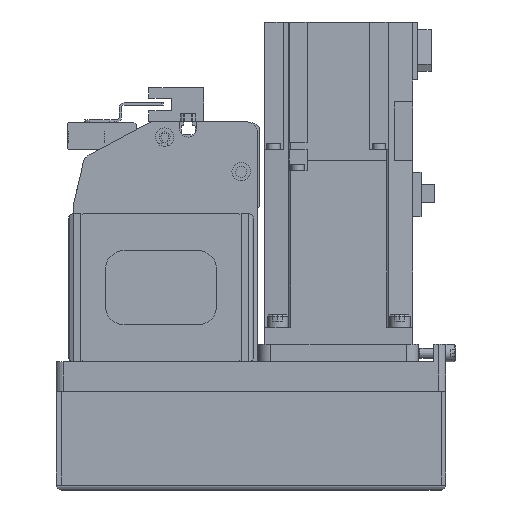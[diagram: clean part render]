
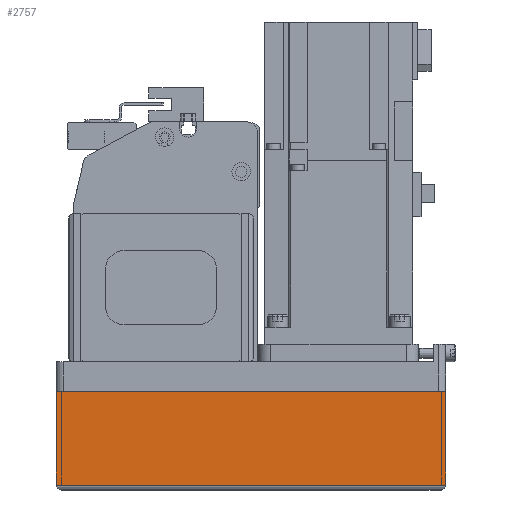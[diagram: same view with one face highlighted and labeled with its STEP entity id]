
A CAD part, left-side view. The second image highlights one B-rep face of the part: STEP entity #2757.
In plain terms, the highlighted planar face has unit normal (-1, 0, 0) as drawn and (0, 1, 0) by its records, which use the part's own axes.
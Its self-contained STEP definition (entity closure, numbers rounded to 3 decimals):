
#2757 = ADVANCED_FACE( '', ( #5980 ), #5981, .T. );
#5980 = FACE_OUTER_BOUND( '', #9535, .T. );
#5981 = PLANE( '', #9536 );
#9535 = EDGE_LOOP( '', ( #17371, #17372, #17373, #17374 ) );
#9536 = AXIS2_PLACEMENT_3D( '', #17375, #17376, #17377 );
#17371 = ORIENTED_EDGE( '', *, *, #20808, .F. );
#17372 = ORIENTED_EDGE( '', *, *, #20596, .F. );
#17373 = ORIENTED_EDGE( '', *, *, #21241, .T. );
#17374 = ORIENTED_EDGE( '', *, *, #22946, .T. );
#17375 = CARTESIAN_POINT( '', ( -158., 39., -50. ) );
#17376 = DIRECTION( '', ( 0., 1., 0. ) );
#17377 = DIRECTION( '', ( 0., 0., 1. ) );
#20596 = EDGE_CURVE( '', #24798, #24801, #24802, .T. );
#20808 = EDGE_CURVE( '', #24801, #25158, #25159, .T. );
#21241 = EDGE_CURVE( '', #24798, #25873, #25876, .T. );
#22946 = EDGE_CURVE( '', #25873, #25158, #28267, .T. );
#24798 = VERTEX_POINT( '', #30735 );
#24801 = VERTEX_POINT( '', #30738 );
#24802 = LINE( '', #30739, #30740 );
#25158 = VERTEX_POINT( '', #31394 );
#25159 = LINE( '', #31395, #31396 );
#25873 = VERTEX_POINT( '', #32687 );
#25876 = LINE( '', #32691, #32692 );
#28267 = LINE( '', #36420, #36421 );
#30735 = CARTESIAN_POINT( '', ( -158., 39., -50. ) );
#30738 = CARTESIAN_POINT( '', ( 0., 39., -50. ) );
#30739 = CARTESIAN_POINT( '', ( -158., 39., -50. ) );
#30740 = VECTOR( '', #38264, 1000. );
#31394 = CARTESIAN_POINT( '', ( 0., 39., -12.1 ) );
#31395 = CARTESIAN_POINT( '', ( 0., 39., -50. ) );
#31396 = VECTOR( '', #38513, 1000. );
#32687 = CARTESIAN_POINT( '', ( -158., 39., -12.1 ) );
#32691 = CARTESIAN_POINT( '', ( -158., 39., -50. ) );
#32692 = VECTOR( '', #39022, 1000. );
#36420 = CARTESIAN_POINT( '', ( -158., 39., -12.1 ) );
#36421 = VECTOR( '', #40969, 1000. );
#38264 = DIRECTION( '', ( 1., 0., 0. ) );
#38513 = DIRECTION( '', ( 0., 0., 1. ) );
#39022 = DIRECTION( '', ( 0., 0., 1. ) );
#40969 = DIRECTION( '', ( 1., 0., 0. ) );
